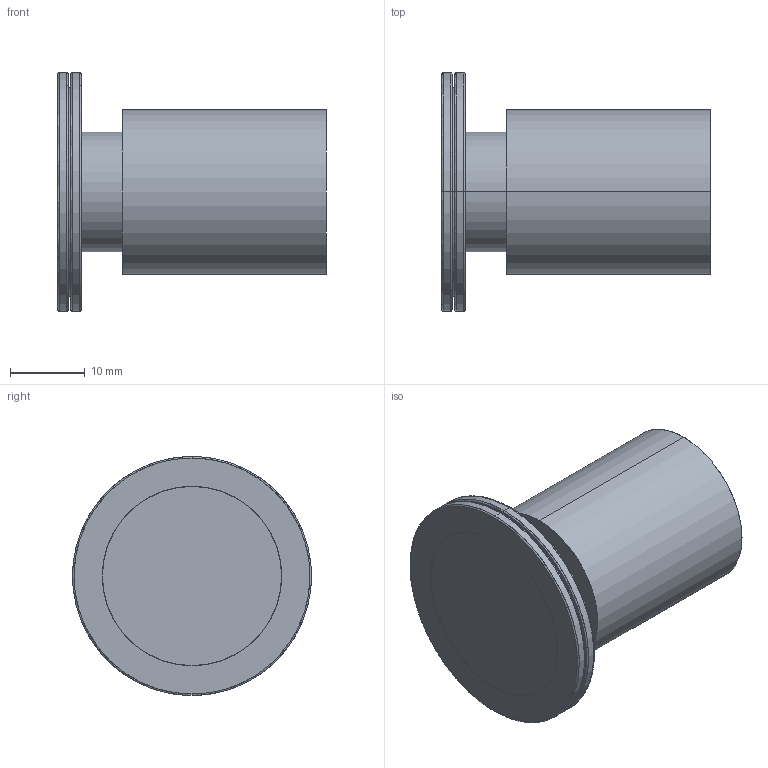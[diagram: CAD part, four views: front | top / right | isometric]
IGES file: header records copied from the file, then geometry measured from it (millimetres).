
Start section: SolidWorks IGES file using analytic representation for surfaces
Global section: file name: C:\Users\Kamkarian\Desktop\020Assey.IGS; native system: SolidWorks 2016; preprocessor: SolidWorks 2016; author: Kamkarian; date: 180616.234836; units: millimetre
Bounding box: 36 x 32 x 32 mm (x, y, z)
Surface area: 5688.8 mm2 (no closed solid volume)
Topology: 0 solids, 0 shells, 97 faces, 1852 edges, 1852 vertices
Faces by surface type: revolution 60, bspline 37
